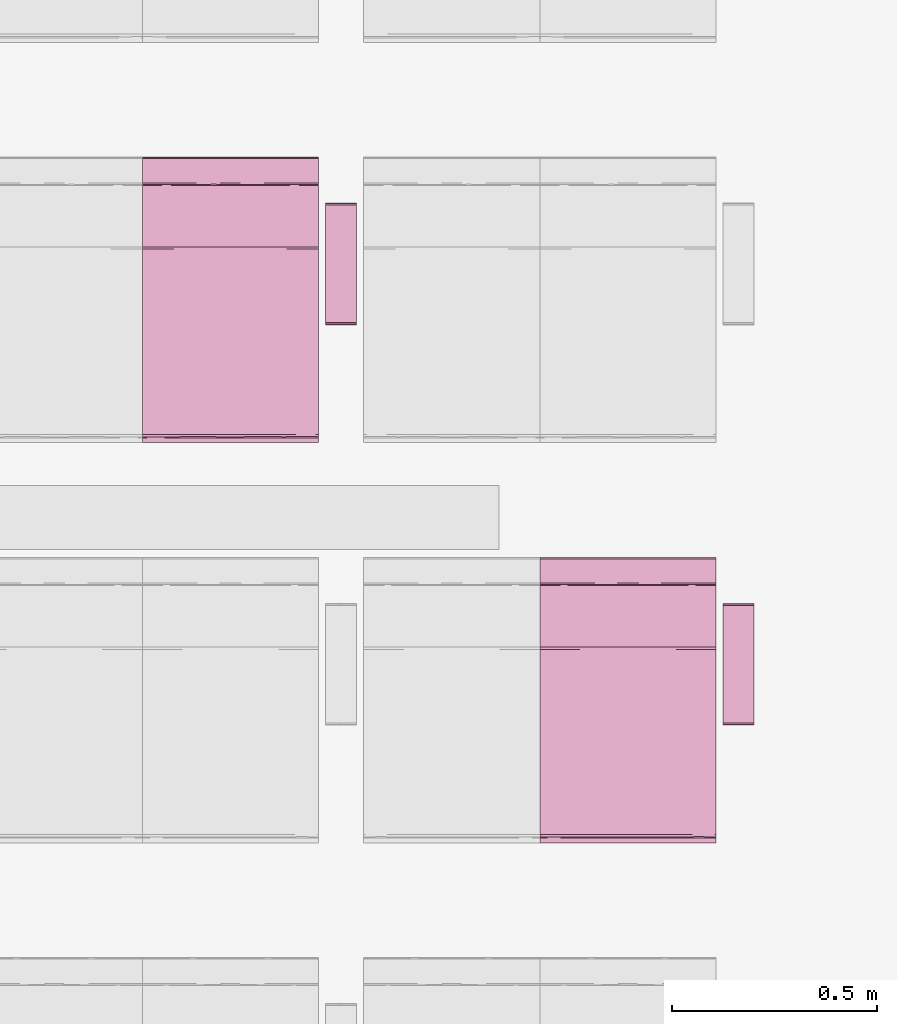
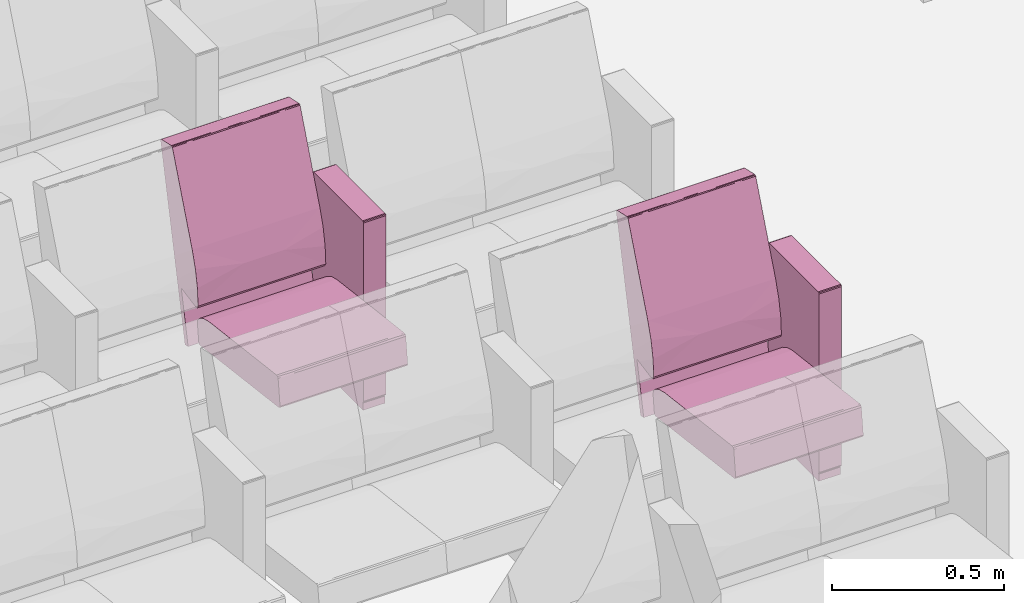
# One storey, part 102 of 155: 2 furnishings.
"""IFC2X3 building model written with IfcOpenShell, lengths in metres."""

from ifc_helpers import new_model, entity, si_unit, converted_unit, derived_unit, direction, frame, origin, place, context, subcontext, project, spatial, faceted_brep, source, transform, mapped, material, material_list, type_object, type_shapes, element, save


model = new_model("IFC2X3")

# Units and contexts
model_context = context("Model", 3, precision=1e-05, world=origin(), true_north=direction((6.12303176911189e-17, 1.0)))
body_context = subcontext(model_context, "Body", "Model", "MODEL_VIEW")
ifc_project = project(units=[si_unit("LENGTHUNIT", "METRE"), si_unit("AREAUNIT", "SQUARE_METRE"), si_unit("VOLUMEUNIT", "CUBIC_METRE"), converted_unit("PLANEANGLEUNIT", "DEGREE", entity("IfcRatioMeasure", 0.0174532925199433), si_unit("PLANEANGLEUNIT", "RADIAN"), dimensions=[0, 0, 0, 0, 0, 0, 0]), si_unit("MASSUNIT", "GRAM", prefix="KILO"), derived_unit("MASSDENSITYUNIT", [(si_unit("MASSUNIT", "GRAM", prefix="KILO"), 1), (si_unit("LENGTHUNIT", "METRE"), -3)]), si_unit("TIMEUNIT", "SECOND"), si_unit("FREQUENCYUNIT", "HERTZ"), si_unit("THERMODYNAMICTEMPERATUREUNIT", "DEGREE_CELSIUS"), derived_unit("THERMALTRANSMITTANCEUNIT", [(si_unit("MASSUNIT", "GRAM", prefix="KILO"), 1), (si_unit("THERMODYNAMICTEMPERATUREUNIT", "KELVIN"), -1), (si_unit("TIMEUNIT", "SECOND"), -3)]), derived_unit("VOLUMETRICFLOWRATEUNIT", [(si_unit("LENGTHUNIT", "METRE"), 3), (si_unit("TIMEUNIT", "SECOND"), -1)]), si_unit("ELECTRICCURRENTUNIT", "AMPERE"), si_unit("ELECTRICVOLTAGEUNIT", "VOLT"), si_unit("POWERUNIT", "WATT"), si_unit("FORCEUNIT", "NEWTON", prefix="KILO"), si_unit("ILLUMINANCEUNIT", "LUX"), si_unit("LUMINOUSFLUXUNIT", "LUMEN"), si_unit("LUMINOUSINTENSITYUNIT", "CANDELA"), derived_unit("USERDEFINED", [(si_unit("MASSUNIT", "GRAM", prefix="KILO"), -1), (si_unit("LENGTHUNIT", "METRE"), -2), (si_unit("TIMEUNIT", "SECOND"), 3), (si_unit("LUMINOUSFLUXUNIT", "LUMEN"), 1)]), derived_unit("LINEARVELOCITYUNIT", [(si_unit("LENGTHUNIT", "METRE"), 1), (si_unit("TIMEUNIT", "SECOND"), -1)]), si_unit("PRESSUREUNIT", "PASCAL"), derived_unit("USERDEFINED", [(si_unit("LENGTHUNIT", "METRE"), -2), (si_unit("MASSUNIT", "GRAM", prefix="KILO"), 1), (si_unit("TIMEUNIT", "SECOND"), -2)])], contexts=[model_context])

# Site, building, storey, space
site_placement = place(None, frame((26.9889013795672, -17.5624287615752, 0.0)))
site = spatial("IfcSite", under=ifc_project, at=site_placement, Name="Default", CompositionType="ELEMENT")
building_placement = place(site_placement, origin())
building = spatial("IfcBuilding", under=site, at=building_placement, Name="C. C. L. Monsenhor Antônio Sampaio", CompositionType="ELEMENT")
storey_placement = place(building_placement, frame((0.0, 0.0, 1.19999999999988)))
storey = spatial("IfcBuildingStorey", under=building, at=storey_placement, Name="Nível 1.2", CompositionType="ELEMENT", Elevation=1.19999999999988)
space_placement = place(storey_placement, origin())
space = spatial("IfcSpace", under=storey, at=space_placement, Name="94", CompositionType="ELEMENT", InteriorOrExteriorSpace="INTERNAL")

# Furnishings
ifc_material_1 = material(Name="V9 - V9 - Ecopelle_672_658")
ifc_material_2 = material(Name="V9 - V9 - RAL_9006_Grigio")
ifc_material_list_1 = material_list([ifc_material_1, ifc_material_2])
ifc_material_list_2 = material_list([ifc_material_1, ifc_material_2])
furniture_type = type_object("IfcFurnitureType", Name="Cadeira auditório", material=ifc_material_list_2)
shared_shape = source(origin(), body_context, "Body", "Brep", [
    faceted_brep([(0.405536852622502, -0.1075, 0.339809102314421), (0.410560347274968, -0.131924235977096, 0.34246450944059), (0.405536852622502, -0.156348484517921, 0.339809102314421), (0.41079981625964, -0.0179166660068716, 0.342749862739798), (0.410597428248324, -0.084060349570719, 0.342506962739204), (0.405536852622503, -0.0537499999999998, 0.339809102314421), (0.410248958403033, -0.173608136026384, 0.342130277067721), (0.405536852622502, -0.215, 0.339809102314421), (0.412515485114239, -0.143333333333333, 0.348529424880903), (0.412515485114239, -0.185674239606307, 0.348529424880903), (0.405536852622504, 0.1075, 0.33980910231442), (0.405536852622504, 0.156348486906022, 0.33980910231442), (0.410560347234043, 0.131924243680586, 0.342464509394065), (0.405536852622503, 0.0, 0.33980910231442), (0.411170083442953, 0.0341365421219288, 0.343251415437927), (0.41251548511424, 0.0, 0.348529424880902), (0.412515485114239, -0.0358333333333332, 0.348529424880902), (0.412515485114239, -0.0716666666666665, 0.348529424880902), (0.41251548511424, 0.143333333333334, 0.348529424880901), (0.41059742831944, 0.0840603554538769, 0.342506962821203), (0.405536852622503, 0.0537500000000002, 0.33980910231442), (0.410248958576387, 0.173608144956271, 0.342130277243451), (0.410799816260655, 0.215, 0.342749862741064), (0.412515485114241, 0.185674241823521, 0.348529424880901), (0.412515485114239, -0.215, 0.348529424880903), (0.410799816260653, -0.215, 0.342749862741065), (0.412515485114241, 0.215, 0.348529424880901), (0.41251548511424, 0.0716666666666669, 0.348529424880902), (0.405536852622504, 0.215, 0.33980910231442), (-0.0557900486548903, -0.215, 0.28268145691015), (-0.0557900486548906, -0.1881249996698, 0.282681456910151), (-0.0557900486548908, -0.161250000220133, 0.282681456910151), (-0.055790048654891, -0.134374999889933, 0.282681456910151), (-0.0557900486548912, -0.107499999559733, 0.282681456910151), (-0.0557900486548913, -0.0806250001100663, 0.282681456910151), (-0.0557900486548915, -0.0537499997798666, 0.282681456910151), (-0.0557900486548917, -0.0268749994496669, 0.282681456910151), (-0.0557900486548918, 0.0, 0.28268145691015), (-0.0557900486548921, 0.0268750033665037, 0.282681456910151), (-0.0557900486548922, 0.0537499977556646, 0.282681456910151), (-0.0557900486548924, 0.0806249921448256, 0.282681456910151), (-0.0557900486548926, 0.107499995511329, 0.282681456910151), (-0.0557900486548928, 0.138065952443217, 0.282681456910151), (-0.055790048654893, 0.168631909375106, 0.282681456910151), (-0.0557900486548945, 0.215, 0.28268145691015), (-0.0594787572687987, -0.0179017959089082, 0.283700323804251), (-0.0613666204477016, 0.0, 0.287029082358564), (-0.0594787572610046, 0.0152829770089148, 0.283700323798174), (-0.0594787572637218, -0.215, 0.283700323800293), (-0.0613666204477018, -0.215, 0.287029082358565), (-0.0613666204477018, -0.191815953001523, 0.287029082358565), (-0.0613666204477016, -0.030565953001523, 0.287029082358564), (-0.0593340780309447, -0.0671874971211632, 0.283591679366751), (-0.0593337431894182, 0.184174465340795, 0.283591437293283), (-0.0594787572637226, 0.215, 0.283700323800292), (-0.0593023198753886, 0.0940625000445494, 0.283568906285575), (-0.0613666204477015, 0.0611319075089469, 0.287029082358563), (-0.0613666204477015, 0.0916978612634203, 0.287029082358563), (-0.0613666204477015, 0.122263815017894, 0.287029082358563), (-0.0597338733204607, -0.147039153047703, 0.283913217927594), (-0.0613666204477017, -0.122263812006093, 0.287029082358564), (-0.059382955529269, -0.118123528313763, 0.28362747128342), (-0.0592501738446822, -0.180223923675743, 0.283532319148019), (-0.0613666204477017, -0.168631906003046, 0.287029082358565), (-0.0588783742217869, -0.0926899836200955, 0.283298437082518), (-0.0613666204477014, 0.168631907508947, 0.287029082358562), (-0.0613666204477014, 0.215, 0.287029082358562), (-0.0592576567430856, 0.123736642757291, 0.283537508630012), (-0.0594787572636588, 0.153348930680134, 0.283700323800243), (-0.0613666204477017, -0.0916978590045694, 0.287029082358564), (-0.0613666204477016, 0.0305659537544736, 0.287029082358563), (-0.059645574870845, 0.045848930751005, 0.283836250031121), (-0.0613666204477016, -0.0611319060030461, 0.287029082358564), (-0.0693403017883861, 0.143333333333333, 0.351419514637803), (-0.069340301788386, 0.215, 0.351419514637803), (-0.0693403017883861, -0.215, 0.351419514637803), (-0.0693403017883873, -0.143333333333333, 0.351419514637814), (-0.069340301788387, -0.0716666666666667, 0.351419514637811), (-0.0693403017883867, 0.0, 0.351419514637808), (-0.0693403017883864, 0.0716666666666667, 0.351419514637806), (-0.0653387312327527, -0.0126787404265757, 0.368680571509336), (-0.0645543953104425, -0.112272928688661, 0.369803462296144), (-0.0597085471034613, 0.0, 0.37476954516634), (-0.0655136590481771, 0.104400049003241, 0.368411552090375), (-0.0681665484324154, 0.0888707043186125, 0.36292533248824), (-0.0694879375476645, -0.0590582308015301, 0.356377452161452), (-0.0695056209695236, 0.125492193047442, 0.356093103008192), (-0.0597085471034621, 0.110316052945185, 0.374769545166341), (-0.0676206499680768, -0.215, 0.364371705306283), (-0.0672851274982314, -0.108066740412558, 0.365148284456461), (-0.0690003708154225, -0.132942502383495, 0.359900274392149), (-0.068624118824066, -0.215, 0.356813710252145), (-0.0686241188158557, 0.214999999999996, 0.356813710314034), (-0.0694502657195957, 0.0358333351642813, 0.356863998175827), (-0.0686999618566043, -0.035833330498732, 0.36116674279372), (-0.067620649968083, 0.214999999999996, 0.364371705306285), (-0.063664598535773, 0.214999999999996, 0.369570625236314), (-0.0597085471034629, 0.214999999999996, 0.374769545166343), (-0.0597085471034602, -0.110316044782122, 0.374769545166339), (-0.0636645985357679, -0.215, 0.36957062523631), (-0.0597085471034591, -0.215, 0.374769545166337), (-0.0018793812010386, -0.215, 0.398686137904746), (-0.0324117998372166, -0.0436847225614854, 0.39063968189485), (-0.0324117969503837, -0.215, 0.390639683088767), (-0.041847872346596, 0.0856576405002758, 0.386239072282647), (-0.00187938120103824, 0.102488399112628, 0.398686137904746), (-0.00187938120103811, 0.215, 0.398686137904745), (-0.0324117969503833, 0.215, 0.390639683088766), (-0.0219042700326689, 0.0570631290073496, 0.394412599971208), (-0.00187938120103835, 0.0, 0.398686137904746), (0.392202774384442, -0.215, 0.447486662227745), (0.392202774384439, -0.156349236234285, 0.447486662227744), (0.392202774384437, -0.107499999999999, 0.447486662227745), (0.392202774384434, -0.0537499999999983, 0.447486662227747), (0.392202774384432, 0.0, 0.447486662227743), (0.392202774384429, 0.0537500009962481, 0.44748666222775), (0.392202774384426, 0.107500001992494, 0.447486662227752), (0.392202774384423, 0.156349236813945, 0.447486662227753), (0.392202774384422, 0.215, 0.447486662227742), (0.397860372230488, 0.0827732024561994, 0.446039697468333), (0.401125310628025, 0.0976984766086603, 0.440530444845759), (0.398104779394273, 0.131924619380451, 0.445856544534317), (0.397373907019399, 0.173462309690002, 0.446363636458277), (0.401125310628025, 0.156349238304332, 0.440530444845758), (0.401125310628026, 0.215000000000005, 0.440530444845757), (0.398104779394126, 0.215000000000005, 0.445856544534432), (0.397860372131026, -0.0827731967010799, 0.446039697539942), (0.398104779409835, -0.131924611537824, 0.445856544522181), (0.398104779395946, -0.0268749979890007, 0.445856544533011), (0.398104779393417, 0.0237489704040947, 0.445856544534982), (0.401125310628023, -0.0488492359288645, 0.440530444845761), (0.401125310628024, 0.0488492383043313, 0.44053044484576), (0.398774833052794, -0.173462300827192, 0.445271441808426), (0.401125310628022, -0.0976984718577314, 0.440530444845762), (0.39810477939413, -0.215, 0.445856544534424), (0.401125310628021, -0.215, 0.440530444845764), (0.401125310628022, -0.156349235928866, 0.440530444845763), (0.401125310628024, 0.0, 0.44053044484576)], [[[0, 1, 2]], [[3, 4, 5]], [[2, 6, 7]], [[8, 9, 6]], [[10, 11, 12]], [[13, 3, 5]], [[3, 14, 15]], [[1, 4, 8]], [[6, 1, 8]], [[4, 3, 16]], [[16, 17, 8, 4]], [[12, 18, 19]], [[4, 1, 0]], [[20, 14, 13]], [[21, 22, 23]], [[15, 16, 3]], [[9, 24, 25]], [[26, 23, 22]], [[7, 6, 25]], [[12, 11, 21]], [[19, 14, 20]], [[4, 0, 5]], [[14, 27, 15]], [[13, 14, 3]], [[19, 18, 27]], [[19, 10, 12]], [[18, 21, 23]], [[10, 19, 20]], [[19, 27, 14]], [[2, 1, 6]], [[21, 11, 28]], [[25, 6, 9]], [[18, 12, 21]], [[22, 21, 28]], [[28, 11, 10, 20, 13, 5, 0, 2, 7, 29, 30, 31, 32, 33, 34, 35, 36, 37, 38, 39, 40, 41, 42, 43, 44]], [[45, 46, 47]], [[48, 49, 50]], [[51, 45, 52]], [[53, 54, 44]], [[55, 56, 57, 58]], [[59, 60, 61]], [[62, 63, 59]], [[34, 64, 52]], [[53, 65, 66]], [[41, 67, 42]], [[37, 36, 35, 45, 47, 38]], [[43, 42, 68]], [[29, 48, 30]], [[59, 31, 62]], [[62, 48, 50]], [[61, 69, 64]], [[65, 53, 68]], [[50, 63, 62]], [[62, 30, 48]], [[55, 58, 67]], [[32, 31, 59]], [[46, 70, 47]], [[65, 68, 58]], [[55, 40, 71]], [[70, 56, 71]], [[61, 33, 32]], [[59, 63, 60]], [[39, 38, 71, 40]], [[47, 71, 38]], [[51, 46, 45]], [[70, 71, 47]], [[71, 56, 55]], [[40, 55, 41]], [[67, 68, 42]], [[43, 68, 53]], [[43, 53, 44]], [[66, 54, 53]], [[68, 67, 58]], [[55, 67, 41]], [[72, 51, 52, 69]], [[62, 31, 30]], [[59, 61, 32]], [[35, 52, 45]], [[64, 34, 33]], [[34, 52, 35]], [[61, 60, 69]], [[52, 64, 69]], [[61, 64, 33]], [[73, 74, 66, 65, 58, 57, 56, 70, 46, 51, 72, 69, 60, 63, 50, 49, 75, 76, 77, 78, 79]], [[80, 81, 82]], [[83, 84, 80]], [[85, 78, 77, 76]], [[73, 79, 86]], [[80, 82, 83]], [[87, 83, 82]], [[88, 89, 90]], [[76, 75, 91]], [[92, 74, 73]], [[91, 90, 85]], [[80, 89, 81]], [[84, 93, 94]], [[84, 86, 93]], [[93, 78, 85]], [[73, 86, 92]], [[94, 93, 85]], [[95, 92, 84]], [[78, 93, 79]], [[80, 84, 94]], [[83, 96, 95]], [[94, 85, 90]], [[87, 97, 96]], [[98, 99, 100]], [[91, 85, 76]], [[94, 90, 89]], [[90, 91, 88]], [[89, 80, 94]], [[89, 99, 81]], [[89, 88, 99]], [[82, 81, 98]], [[81, 99, 98]], [[92, 86, 84]], [[93, 86, 79]], [[84, 83, 95]], [[96, 83, 87]], [[101, 102, 103]], [[104, 97, 87, 82]], [[105, 106, 107]], [[107, 108, 105]], [[109, 102, 101]], [[82, 102, 104]], [[102, 108, 104]], [[103, 102, 100]], [[97, 104, 107]], [[104, 108, 107]], [[102, 82, 98, 100]], [[105, 108, 109]], [[108, 102, 109]], [[109, 101, 110, 111, 112, 113, 114, 115, 116, 117, 118, 106, 105]], [[119, 120, 121]], [[122, 123, 124]], [[122, 125, 118]], [[126, 113, 112]], [[117, 121, 122]], [[121, 117, 116]], [[112, 111, 127]], [[113, 128, 129, 115, 114]], [[126, 130, 128]], [[129, 131, 119]], [[111, 132, 127]], [[132, 111, 110]], [[133, 126, 127]], [[123, 122, 121]], [[132, 134, 135]], [[127, 132, 136]], [[123, 121, 120]], [[127, 136, 133]], [[129, 128, 130, 137, 131]], [[112, 127, 126]], [[126, 133, 130]], [[119, 121, 116]], [[113, 126, 128]], [[119, 115, 129]], [[119, 116, 115]], [[120, 119, 131]], [[117, 122, 118]], [[124, 125, 122]], [[136, 132, 135]], [[110, 134, 132]], [[137, 130, 133, 136, 135, 24, 9, 8, 17, 16, 15, 27, 18, 23, 26, 124, 123, 120, 131]], [[44, 54, 66, 74, 92, 95, 96, 97, 107, 106, 118, 125, 124, 26, 22, 28]], [[75, 49, 48, 29, 7, 25, 24, 135, 134, 110, 101, 103, 100, 99, 88, 91]]]),
    faceted_brep([(0.119812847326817, 0.27, 0.674900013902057), (0.12334838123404, 0.259944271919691, 0.6734355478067), (0.123144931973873, 0.283972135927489, 0.673627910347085), (0.124812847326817, 0.27, 0.669900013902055), (0.119812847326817, 0.232, 0.674900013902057), (0.12334838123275, 0.232, 0.673435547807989), (0.124812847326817, 0.308, 0.669900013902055), (0.119812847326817, 0.308, 0.674900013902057), (0.124812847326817, 0.249888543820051, 0.669900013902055), (0.124812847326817, 0.232, 0.669900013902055), (0.12334838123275, 0.308, 0.673435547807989), (0.124812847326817, 0.232, 0.0349999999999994), (0.124812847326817, 0.27, 0.035), (0.124812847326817, 0.308, 0.035), (0.12334838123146, 0.25994427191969, 0.0314644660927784), (0.123540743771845, 0.283972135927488, 0.0316679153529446), (0.119812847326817, 0.27, 0.0300000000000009), (0.12334838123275, 0.232, 0.0314644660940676), (0.119812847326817, 0.308, 0.0300000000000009), (0.119812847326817, 0.249888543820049, 0.030000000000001), (0.119812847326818, 0.232, 0.030000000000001), (0.123348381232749, 0.308, 0.0314644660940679), (-0.167179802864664, 0.27, 0.0300000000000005), (-0.167179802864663, 0.308, 0.0300000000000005), (-0.167179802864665, 0.232, 0.0300000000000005), (-0.170715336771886, 0.25994427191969, 0.0314644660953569), (-0.17051188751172, 0.283972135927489, 0.0312721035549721), (-0.172179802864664, 0.27, 0.0350000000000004), (-0.170715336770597, 0.232, 0.0314644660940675), (-0.172179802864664, 0.308, 0.0350000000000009), (-0.172179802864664, 0.24988854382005, 0.0350000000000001), (-0.172179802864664, 0.232, 0.0349999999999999), (-0.170715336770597, 0.308, 0.0314644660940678), (-0.172179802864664, 0.308, 0.669900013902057), (-0.172179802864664, 0.232, 0.669900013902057), (-0.172179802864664, 0.27, 0.669900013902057), (-0.170715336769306, 0.259944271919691, 0.673435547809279), (-0.170907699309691, 0.283972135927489, 0.673232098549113), (-0.167179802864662, 0.27, 0.674900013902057), (-0.170715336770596, 0.232, 0.67343554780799), (-0.167179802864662, 0.308, 0.674900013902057), (-0.167179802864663, 0.249888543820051, 0.674900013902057), (-0.167179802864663, 0.232, 0.674900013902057), (-0.170715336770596, 0.308, 0.67343554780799)], [[[0, 1, 2]], [[3, 2, 1]], [[0, 4, 5, 1]], [[2, 3, 6]], [[0, 2, 7]], [[8, 3, 1, 5, 9]], [[7, 2, 10]], [[6, 10, 2]], [[9, 11, 12, 13, 6, 3, 8]], [[12, 14, 15]], [[16, 15, 14]], [[12, 11, 17, 14]], [[15, 16, 18]], [[12, 15, 13]], [[19, 16, 14, 17, 20]], [[13, 15, 21]], [[18, 21, 15]], [[22, 23, 18, 16, 19, 20, 24]], [[22, 25, 26]], [[27, 26, 25]], [[22, 24, 28, 25]], [[26, 27, 29]], [[22, 26, 23]], [[30, 27, 25, 28, 31]], [[23, 26, 32]], [[29, 32, 26]], [[33, 29, 27, 30, 31, 34, 35]], [[35, 36, 37]], [[38, 37, 36]], [[35, 34, 39, 36]], [[37, 38, 40]], [[35, 37, 33]], [[41, 38, 36, 39, 42]], [[33, 37, 43]], [[40, 43, 37]], [[0, 7, 40, 38, 41, 42, 4]], [[42, 39, 34, 31, 28, 24, 20, 17, 11, 9, 5, 4]], [[23, 32, 29, 33, 43, 40, 7, 10, 6, 13, 21, 18]]]),
    faceted_brep([(-0.0655618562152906, -0.215, 0.415143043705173), (-0.0744051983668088, -0.0524423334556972, 0.506888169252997), (-0.0695672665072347, -0.215, 0.476508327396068), (-0.0655618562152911, 0.0, 0.415143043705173), (-0.0744051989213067, 0.0780075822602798, 0.506888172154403), (-0.0655618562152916, 0.1075, 0.415143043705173), (-0.0655618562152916, 0.215, 0.415143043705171), (-0.0655618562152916, -0.1075, 0.415143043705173), (-0.0695672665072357, 0.215, 0.476508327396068), (-0.0811110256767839, 0.215, 0.536911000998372), (-0.0811110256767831, -0.215, 0.536911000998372), (-0.100016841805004, 0.0, 0.595428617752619), (-0.100016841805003, -0.215, 0.595428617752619), (-0.100016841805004, 0.215, 0.595428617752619), (-0.0792851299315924, -0.0716666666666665, 0.404772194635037), (-0.0792851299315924, 0.0, 0.404772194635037), (-0.0698317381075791, -0.0358333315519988, 0.406528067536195), (-0.0698317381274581, 0.215, 0.406528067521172), (-0.0792851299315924, 0.143333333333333, 0.404772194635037), (-0.0792851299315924, 0.215, 0.404772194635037), (-0.0698317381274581, -0.215, 0.406528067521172), (-0.0792851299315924, -0.215, 0.404772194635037), (-0.0792851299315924, -0.143333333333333, 0.404772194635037), (-0.0694171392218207, -0.140338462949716, 0.406857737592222), (-0.0708115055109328, 0.0356393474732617, 0.405868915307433), (-0.0703502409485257, 0.107500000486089, 0.406159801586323), (-0.0792851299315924, 0.0716666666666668, 0.404772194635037), (-0.163837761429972, 0.215, 0.420611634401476), (-0.163837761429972, -0.215, 0.420611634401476), (-0.123612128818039, -0.215, 0.235917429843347), (-0.123612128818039, 0.215, 0.235917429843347), (-0.142059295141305, -0.215, 0.231899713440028), (-0.142059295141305, 0.215, 0.231899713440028), (-0.235388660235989, -0.215, 0.652619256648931), (-0.235388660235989, 0.215, 0.652619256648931), (-0.28428001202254, 0.0, 0.873004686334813), (-0.284280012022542, 0.0268749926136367, 0.873004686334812), (-0.284280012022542, 0.0537499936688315, 0.873004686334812), (-0.284280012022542, 0.0806249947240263, 0.873004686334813), (-0.284280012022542, 0.107499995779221, 0.873004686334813), (-0.284280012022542, 0.134374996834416, 0.873004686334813), (-0.284280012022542, 0.161249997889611, 0.873004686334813), (-0.284280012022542, 0.191295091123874, 0.873004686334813), (-0.28428001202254, 0.215, 0.873004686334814), (-0.284280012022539, -0.215, 0.873004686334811), (-0.28428001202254, -0.191295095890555, 0.873004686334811), (-0.284280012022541, -0.161249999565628, 0.873004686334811), (-0.284280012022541, -0.134374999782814, 0.873004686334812), (-0.284280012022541, -0.1075, 0.873004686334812), (-0.284280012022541, -0.0806250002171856, 0.873004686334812), (-0.284280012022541, -0.0537500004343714, 0.873004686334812), (-0.284280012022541, -0.0268749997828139, 0.873004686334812), (-0.283504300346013, -0.0569644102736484, 0.877068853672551), (-0.283746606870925, -0.0872244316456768, 0.876674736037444), (-0.283641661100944, 0.12093750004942, 0.876855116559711), (-0.283567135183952, 0.15546176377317, 0.876973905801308), (-0.28330409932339, -0.185293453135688, 0.877344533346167), (-0.283567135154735, -0.155461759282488, 0.876973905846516), (-0.280514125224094, 0.0, 0.879190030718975), (-0.280514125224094, 0.0358333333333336, 0.879190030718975), (-0.283641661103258, 0.0136463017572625, 0.876855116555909), (-0.283641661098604, -0.0179166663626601, 0.876855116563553), (-0.280514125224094, -0.0358333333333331, 0.879190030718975), (-0.280514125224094, 0.1075, 0.879190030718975), (-0.280514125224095, 0.143333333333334, 0.879190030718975), (-0.283746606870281, 0.0872244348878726, 0.876674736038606), (-0.280514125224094, 0.071666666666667, 0.879190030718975), (-0.280514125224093, -0.1075, 0.879190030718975), (-0.280514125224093, -0.0716666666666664, 0.879190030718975), (-0.280514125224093, -0.143333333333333, 0.879190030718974), (-0.283641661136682, -0.120937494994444, 0.876855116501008), (-0.283641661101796, -0.215, 0.876855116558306), (-0.283641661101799, 0.215, 0.876855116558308), (-0.280514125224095, 0.167590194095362, 0.879190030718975), (-0.283304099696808, 0.18529345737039, 0.877344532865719), (-0.280514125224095, 0.215, 0.879190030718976), (-0.280514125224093, -0.167590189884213, 0.879190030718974), (-0.280514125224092, -0.215, 0.879190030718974), (-0.283504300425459, 0.0569644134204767, 0.8770688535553), (-0.221112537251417, -0.215, 0.892176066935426), (-0.221112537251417, -0.19181594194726, 0.892176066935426), (-0.221112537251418, -0.16124999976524, 0.892176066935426), (-0.221112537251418, -0.13437499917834, 0.892176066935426), (-0.221112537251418, -0.10749999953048, 0.892176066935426), (-0.221112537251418, -0.08062499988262, 0.892176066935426), (-0.221112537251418, -0.0537500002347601, 0.892176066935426), (-0.221112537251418, -0.0268750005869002, 0.892176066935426), (-0.221112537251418, 0.0, 0.892176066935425), (-0.221112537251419, 0.0268750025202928, 0.892176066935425), (-0.221112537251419, 0.053749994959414, 0.892176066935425), (-0.221112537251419, 0.0806249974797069, 0.892176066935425), (-0.221112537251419, 0.1075, 0.892176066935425), (-0.221112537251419, 0.134375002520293, 0.892176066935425), (-0.221112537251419, 0.161250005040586, 0.892176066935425), (-0.221112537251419, 0.191815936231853, 0.892176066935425), (-0.221112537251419, 0.215, 0.892176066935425), (-0.217722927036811, -0.0162353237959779, 0.891719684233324), (-0.215419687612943, -0.0358333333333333, 0.889191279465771), (-0.215419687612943, 0.0, 0.889191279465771), (-0.217722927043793, 0.0134375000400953, 0.891719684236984), (-0.217722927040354, 0.120937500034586, 0.89171968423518), (-0.217722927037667, 0.0912646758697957, 0.891719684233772), (-0.215419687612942, 0.0716666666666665, 0.88919127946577), (-0.215419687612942, 0.1075, 0.88919127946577), (-0.215419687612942, 0.143333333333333, 0.88919127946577), (-0.217722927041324, 0.215, 0.891719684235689), (-0.217722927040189, 0.182482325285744, 0.891719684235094), (-0.215419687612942, 0.168631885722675, 0.889191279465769), (-0.215419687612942, 0.191815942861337, 0.889191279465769), (-0.215419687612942, 0.215, 0.889191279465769), (-0.217722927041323, -0.215, 0.89171968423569), (-0.215419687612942, -0.215, 0.889191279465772), (-0.215419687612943, -0.191815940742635, 0.889191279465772), (-0.217722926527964, -0.190103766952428, 0.891719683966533), (-0.2179983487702, 0.039082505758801, 0.891853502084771), (-0.217816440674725, 0.0647800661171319, 0.891767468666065), (-0.217558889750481, 0.155982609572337, 0.891629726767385), (-0.217722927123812, -0.120937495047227, 0.891719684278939), (-0.217558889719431, -0.15598260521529, 0.891629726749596), (-0.215419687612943, -0.143333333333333, 0.889191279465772), (-0.215419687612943, -0.16863188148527, 0.889191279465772), (-0.215419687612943, -0.0716666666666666, 0.889191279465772), (-0.217816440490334, -0.0647800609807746, 0.891767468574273), (-0.217722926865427, -0.0912646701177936, 0.891719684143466), (-0.215419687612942, 0.0358333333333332, 0.889191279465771), (-0.215419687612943, -0.1075, 0.889191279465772), (-0.218257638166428, -0.0404491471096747, 0.891961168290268)], [[[0, 1, 2]], [[3, 4, 1]], [[4, 3, 5, 6]], [[1, 0, 7, 3]], [[8, 4, 6]], [[9, 4, 8]], [[1, 10, 2]], [[1, 11, 12]], [[9, 13, 4]], [[13, 11, 4]], [[10, 1, 12]], [[11, 1, 4]], [[14, 15, 16]], [[17, 18, 19]], [[20, 21, 22]], [[20, 23, 0]], [[3, 7, 16]], [[15, 24, 16]], [[24, 25, 5]], [[22, 23, 20]], [[7, 23, 16]], [[6, 5, 17]], [[16, 24, 3]], [[16, 23, 14]], [[23, 22, 14]], [[18, 25, 26]], [[18, 17, 25]], [[26, 24, 15]], [[7, 0, 23]], [[5, 25, 17]], [[25, 24, 26]], [[3, 24, 5]], [[27, 19, 18, 26, 15, 14, 22, 21, 28]], [[27, 28, 29, 30]], [[31, 32, 30, 29]], [[33, 34, 32, 31]], [[35, 36, 37, 38, 39, 40, 41, 42, 43, 34, 33, 44, 45, 46, 47, 48, 49, 50, 51]], [[52, 49, 53]], [[54, 55, 40]], [[46, 56, 57]], [[58, 59, 60, 61, 62]], [[54, 63, 64]], [[65, 66, 63]], [[67, 68, 53]], [[57, 69, 70]], [[45, 56, 46]], [[39, 54, 40]], [[45, 44, 71]], [[72, 43, 42]], [[35, 51, 61, 60, 36]], [[55, 73, 74]], [[39, 65, 54]], [[74, 73, 75]], [[67, 53, 70]], [[74, 42, 41]], [[64, 73, 55]], [[56, 76, 57]], [[74, 72, 42]], [[76, 56, 77]], [[56, 71, 77]], [[57, 76, 69]], [[48, 70, 53]], [[70, 48, 47]], [[60, 78, 36]], [[63, 54, 65]], [[71, 56, 45]], [[41, 55, 74]], [[72, 74, 75]], [[57, 70, 47]], [[47, 46, 57]], [[69, 67, 70]], [[50, 49, 52, 51]], [[52, 62, 61]], [[61, 51, 52]], [[55, 41, 40]], [[55, 54, 64]], [[66, 65, 78]], [[65, 38, 78]], [[52, 53, 68]], [[37, 36, 78, 38]], [[78, 59, 66]], [[59, 78, 60]], [[49, 48, 53]], [[65, 39, 38]], [[52, 68, 62]], [[79, 80, 81, 82, 83, 84, 85, 86, 87, 88, 89, 90, 91, 92, 93, 94, 95, 75, 73, 64, 63, 66, 59, 58, 62, 68, 67, 69, 76, 77]], [[96, 97, 98, 99]], [[100, 101, 102, 103, 104]], [[105, 106, 107, 108, 109]], [[110, 111, 112]], [[80, 110, 113]], [[89, 114, 115]], [[92, 116, 93]], [[94, 93, 106, 105, 95]], [[80, 79, 110]], [[92, 91, 90, 101, 100]], [[99, 88, 87, 86, 96]], [[104, 107, 116]], [[117, 83, 82]], [[117, 118, 119]], [[112, 120, 113]], [[118, 120, 119]], [[118, 81, 113]], [[116, 107, 106]], [[101, 90, 115]], [[121, 122, 123]], [[104, 116, 100]], [[110, 112, 113]], [[114, 99, 124]], [[92, 100, 116]], [[117, 125, 123]], [[82, 81, 118]], [[118, 117, 82]], [[83, 117, 123]], [[125, 117, 119]], [[102, 101, 115]], [[84, 83, 123]], [[123, 125, 121]], [[85, 84, 122]], [[89, 115, 90]], [[96, 86, 126]], [[124, 102, 115]], [[88, 99, 114]], [[99, 98, 124]], [[122, 121, 97]], [[126, 122, 97]], [[88, 114, 89]], [[115, 114, 124]], [[123, 122, 84]], [[126, 85, 122]], [[85, 126, 86]], [[96, 126, 97]], [[116, 106, 93]], [[80, 113, 81]], [[118, 113, 120]], [[12, 11, 13, 109, 108, 107, 104, 103, 102, 124, 98, 97, 121, 125, 119, 120, 112, 111]], [[30, 32, 34, 43, 72, 75, 95, 105, 109, 13, 9, 8, 6, 17, 19, 27]], [[77, 71, 44, 33, 31, 29, 28, 21, 20, 0, 2, 10, 12, 111, 110, 79]]]),
    faceted_brep([(0.120312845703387, 0.2335, 0.0), (0.120312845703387, 0.3065, 0.0), (0.120312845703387, 0.3065, 0.0260000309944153), (0.120312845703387, 0.27, 0.0260000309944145), (0.120312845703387, 0.249500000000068, 0.0260000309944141), (0.120312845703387, 0.2335, 0.0260000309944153), (-0.167687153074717, 0.2335, 0.0), (-0.167687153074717, 0.3065, 0.0), (-0.167687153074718, 0.3065, 0.0260000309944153), (-0.167687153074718, 0.2335, 0.0260000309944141), (-0.167687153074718, 0.27, 0.0260000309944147), (-0.163702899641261, 0.233500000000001, 0.0300000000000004), (-0.166521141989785, 0.257382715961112, 0.0288228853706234), (-0.166521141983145, 0.233500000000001, 0.0288228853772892), (-0.166521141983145, 0.3065, 0.0288228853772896), (-0.16652114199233, 0.279986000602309, 0.0288228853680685), (-0.163702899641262, 0.3065, 0.0300000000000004), (-0.163702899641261, 0.27, 0.0300000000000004), (0.116297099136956, 0.2335, 0.0300000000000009), (0.116297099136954, 0.270000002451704, 0.0300000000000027), (0.116297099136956, 0.3065, 0.0300000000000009), (0.119033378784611, 0.283124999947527, 0.0289323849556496), (0.119135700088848, 0.259750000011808, 0.0288340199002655), (0.1191357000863, 0.2335, 0.0288340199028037), (0.119135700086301, 0.3065, 0.0288340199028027)], [[[0, 1, 2, 3, 4, 5]], [[6, 7, 1, 0]], [[8, 7, 6, 9, 10]], [[11, 12, 13]], [[14, 15, 16]], [[17, 16, 15, 12, 11]], [[13, 12, 10, 9]], [[8, 15, 14]], [[12, 15, 8, 10]], [[16, 17, 11, 18, 19, 20]], [[3, 2, 21]], [[22, 19, 18, 23]], [[22, 23, 5, 4, 3]], [[20, 21, 24]], [[22, 3, 21]], [[19, 21, 20]], [[2, 24, 21]], [[19, 22, 21]], [[20, 24, 2, 1, 7, 8, 14, 16]], [[18, 11, 13, 9, 6, 0, 5, 23]]]),
])
type_shapes(furniture_type, [shared_shape])
furnishing_1_placement = place(space_placement, frame((-11.0559492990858, -15.3086263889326, 0.0), z_axis=(0.0, 0.0, 1.0), x_axis=(0.0, -1.0, 0.0)))
element("IfcFurnishingElement", 1, at=furnishing_1_placement, inside=space, type_object=furniture_type, material=ifc_material_list_1, Name="cadeira auditório pcd:Cadeira auditório", ObjectType="Cadeira auditório", context=body_context, shape_type="MappedRepresentation", body=[
    mapped(shared_shape, transform((0.0, 0.0, 0.0), scale=1.0)),
])
ifc_material_list_3 = material_list([ifc_material_1, ifc_material_2])
furnishing_2_placement = place(space_placement, frame((-12.0259492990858, -14.3320195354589, 0.0), z_axis=(0.0, 0.0, 1.0), x_axis=(0.0, -1.0, 0.0)))
element("IfcFurnishingElement", 2, at=furnishing_2_placement, inside=space, type_object=furniture_type, material=ifc_material_list_3, Name="cadeira auditório pcd:Cadeira auditório", ObjectType="Cadeira auditório", context=body_context, shape_type="MappedRepresentation", body=[
    mapped(shared_shape, transform((0.0, 0.0, 0.0), scale=1.0)),
])

save(model, "model.ifc")
